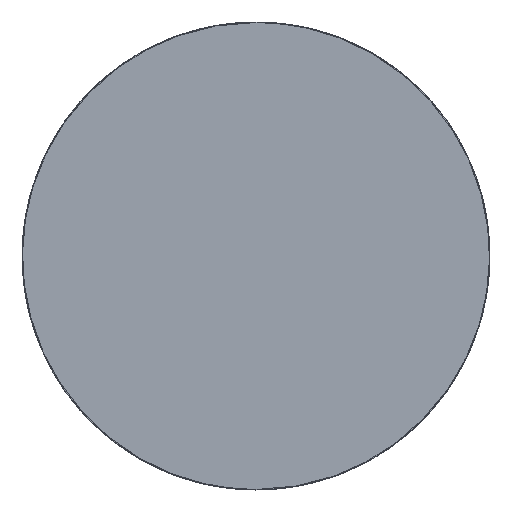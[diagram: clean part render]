
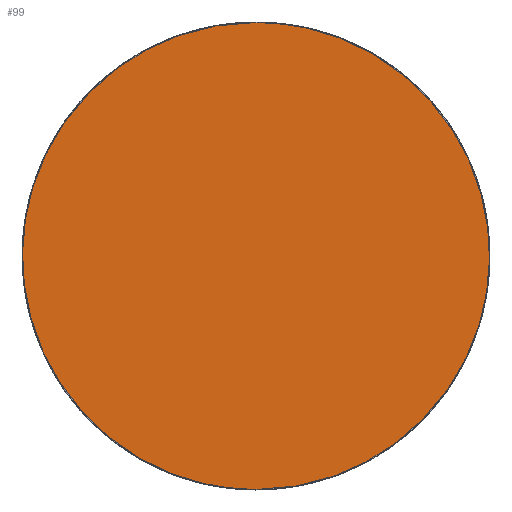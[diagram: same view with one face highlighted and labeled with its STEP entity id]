
A CAD part, top view. The second image highlights one B-rep face of the part: STEP entity #99.
In plain terms, the highlighted planar face has unit normal (0, 0, 1).
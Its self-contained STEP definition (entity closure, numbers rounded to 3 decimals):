
#99=ADVANCED_FACE('',(#207),#1501,.T.);
#207=FACE_OUTER_BOUND('',#320,.T.);
#320=EDGE_LOOP('',(#683,#684));
#683=ORIENTED_EDGE('',*,*,#994,.T.);
#684=ORIENTED_EDGE('',*,*,#1046,.T.);
#994=EDGE_CURVE('',#1384,#1410,#1135,.T.);
#1046=EDGE_CURVE('',#1410,#1384,#1165,.T.);
#1135=(
BOUNDED_CURVE()
B_SPLINE_CURVE(2,(#6174,#6175,#6176,#6177,#6178),.UNSPECIFIED.,.F.,.F.)
B_SPLINE_CURVE_WITH_KNOTS((3,2,3),(-2821.15,-2115.863,
-1410.575),.UNSPECIFIED.)
CURVE()
GEOMETRIC_REPRESENTATION_ITEM()
RATIONAL_B_SPLINE_CURVE((1.,0.707,1.,0.707,1.))
REPRESENTATION_ITEM('')
);
#1165=(
BOUNDED_CURVE()
B_SPLINE_CURVE(2,(#7458,#7459,#7460,#7461,#7462),.UNSPECIFIED.,.F.,.F.)
B_SPLINE_CURVE_WITH_KNOTS((3,2,3),(-1410.575,-705.288,
0.),.UNSPECIFIED.)
CURVE()
GEOMETRIC_REPRESENTATION_ITEM()
RATIONAL_B_SPLINE_CURVE((1.,0.707,1.,0.707,1.))
REPRESENTATION_ITEM('')
);
#1384=VERTEX_POINT('',#4520);
#1410=VERTEX_POINT('',#4546);
#1501=PLANE('',#1583);
#1583=AXIS2_PLACEMENT_3D('',#4265,#1648,$);
#1648=DIRECTION('',(0.,0.,1.));
#4265=CARTESIAN_POINT('',(-2753.855,428.017,740.));
#4520=CARTESIAN_POINT('',(-2295.875,-478.963,740.));
#4546=CARTESIAN_POINT('',(-2295.875,419.037,740.));
#6174=CARTESIAN_POINT('',(-2295.875,-478.963,740.));
#6175=CARTESIAN_POINT('',(-1846.875,-478.963,740.));
#6176=CARTESIAN_POINT('',(-1846.875,-29.963,740.));
#6177=CARTESIAN_POINT('',(-1846.875,419.037,740.));
#6178=CARTESIAN_POINT('',(-2295.875,419.037,740.));
#7458=CARTESIAN_POINT('',(-2295.875,419.037,740.));
#7459=CARTESIAN_POINT('',(-2744.875,419.037,740.));
#7460=CARTESIAN_POINT('',(-2744.875,-29.963,740.));
#7461=CARTESIAN_POINT('',(-2744.875,-478.963,740.));
#7462=CARTESIAN_POINT('',(-2295.875,-478.963,740.));
